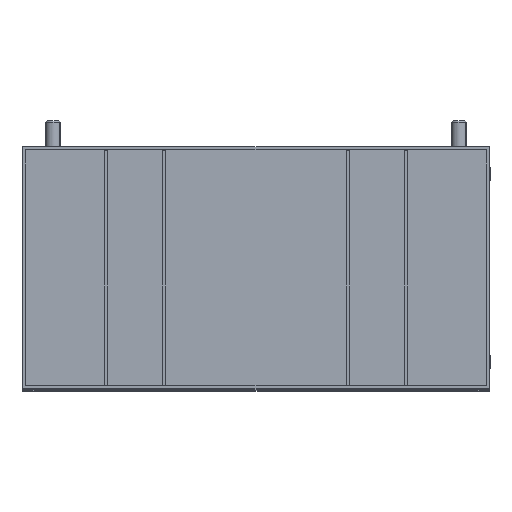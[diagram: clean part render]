
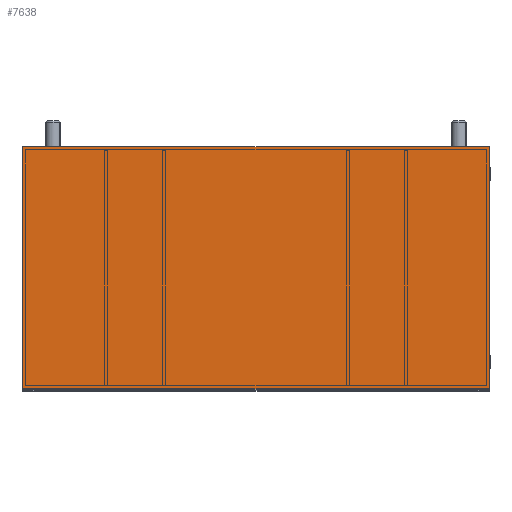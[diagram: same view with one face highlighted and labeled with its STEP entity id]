
A CAD part, top view. The second image highlights one B-rep face of the part: STEP entity #7638.
In plain terms, the highlighted planar face has unit normal (0, 0, 1) as drawn and (0, 0, -1) by its records, which use the part's own axes.
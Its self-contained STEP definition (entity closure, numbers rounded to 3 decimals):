
#19 = LINE ( 'NONE', #6212, #7951 ) ;
#660 = PLANE ( 'NONE',  #1251 ) ;
#1251 = AXIS2_PLACEMENT_3D ( 'NONE', #3873, #9860, #7867 ) ;
#1913 = VERTEX_POINT ( 'NONE', #9076 ) ;
#1998 = DIRECTION ( 'NONE',  ( 0., -1., 0. ) ) ;
#2814 = CARTESIAN_POINT ( 'NONE',  ( 0., 100., -2.5 ) ) ;
#2968 = EDGE_CURVE ( 'NONE', #1913, #8288, #11067, .T. ) ;
#3608 = VECTOR ( 'NONE', #6087, 1000. ) ;
#3873 = CARTESIAN_POINT ( 'NONE',  ( 0., 0., -2.5 ) ) ;
#4040 = VECTOR ( 'NONE', #4866, 1000. ) ;
#4839 = CARTESIAN_POINT ( 'NONE',  ( 192.75, 100., -2.5 ) ) ;
#4866 = DIRECTION ( 'NONE',  ( 0., 1., 0. ) ) ;
#4881 = LINE ( 'NONE', #10256, #7967 ) ;
#5080 = DIRECTION ( 'NONE',  ( 1., 0., 0. ) ) ;
#6087 = DIRECTION ( 'NONE',  ( -1., 0., 0. ) ) ;
#6212 = CARTESIAN_POINT ( 'NONE',  ( -192.75, 0., -2.5 ) ) ;
#7603 = ORIENTED_EDGE ( 'NONE', *, *, #10317, .F. ) ;
#7638 = ADVANCED_FACE ( 'NONE', ( #12118 ), #660, .T. ) ;
#7849 = VERTEX_POINT ( 'NONE', #11264 ) ;
#7867 = DIRECTION ( 'NONE',  ( -1., 0., 0. ) ) ;
#7951 = VECTOR ( 'NONE', #1998, 1000. ) ;
#7967 = VECTOR ( 'NONE', #5080, 1000. ) ;
#8288 = VERTEX_POINT ( 'NONE', #4839 ) ;
#8757 = EDGE_CURVE ( 'NONE', #10741, #1913, #4881, .T. ) ;
#9009 = ORIENTED_EDGE ( 'NONE', *, *, #10478, .F. ) ;
#9076 = CARTESIAN_POINT ( 'NONE',  ( 192.75, -100., -2.5 ) ) ;
#9777 = ORIENTED_EDGE ( 'NONE', *, *, #8757, .F. ) ;
#9812 = ORIENTED_EDGE ( 'NONE', *, *, #2968, .F. ) ;
#9860 = DIRECTION ( 'NONE',  ( 0., 0., -1. ) ) ;
#9956 = CARTESIAN_POINT ( 'NONE',  ( -192.75, -100., -2.5 ) ) ;
#10256 = CARTESIAN_POINT ( 'NONE',  ( 0., -100., -2.5 ) ) ;
#10307 = CARTESIAN_POINT ( 'NONE',  ( 192.75, 0., -2.5 ) ) ;
#10317 = EDGE_CURVE ( 'NONE', #8288, #7849, #12292, .T. ) ;
#10478 = EDGE_CURVE ( 'NONE', #7849, #10741, #19, .T. ) ;
#10741 = VERTEX_POINT ( 'NONE', #9956 ) ;
#11067 = LINE ( 'NONE', #10307, #4040 ) ;
#11264 = CARTESIAN_POINT ( 'NONE',  ( -192.75, 100., -2.5 ) ) ;
#12118 = FACE_OUTER_BOUND ( 'NONE', #12774, .T. ) ;
#12292 = LINE ( 'NONE', #2814, #3608 ) ;
#12774 = EDGE_LOOP ( 'NONE', ( #9812, #9777, #9009, #7603 ) ) ;
